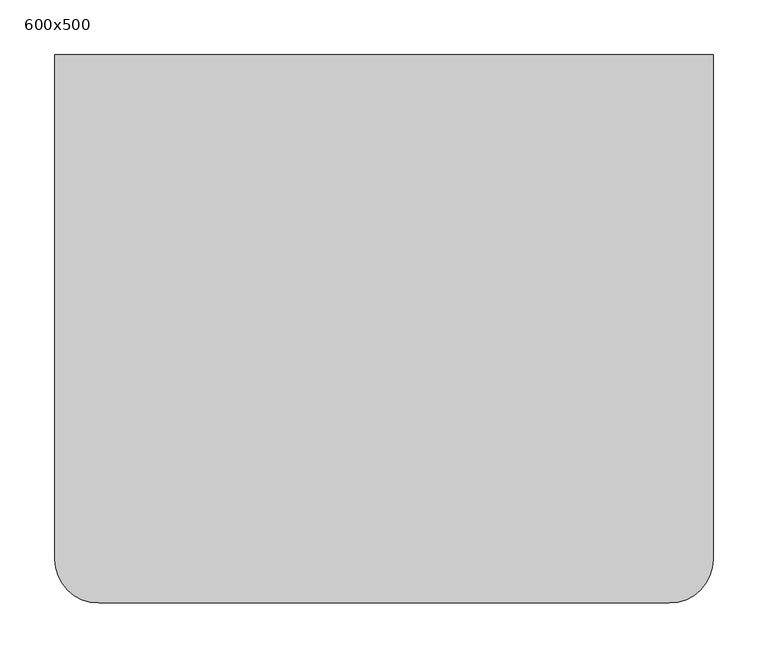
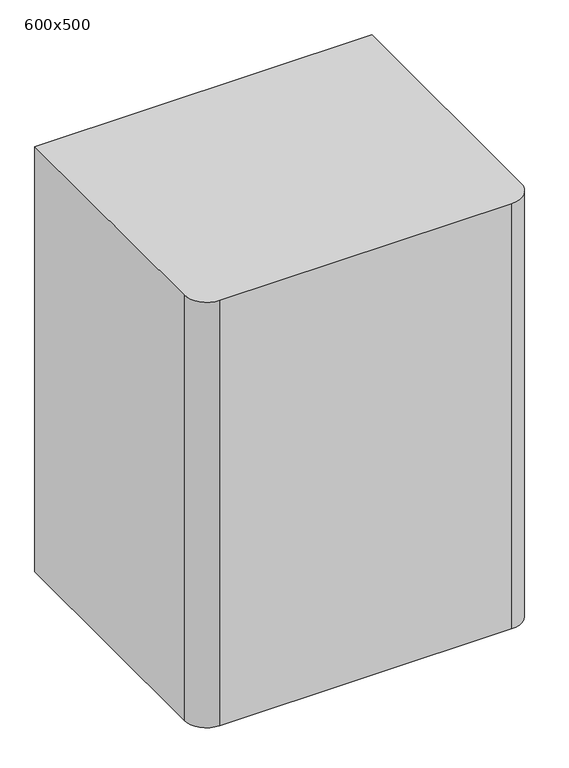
"""IFC4 building model written with IfcOpenShell, lengths in millimetres: flow terminal geometry, SP_раковина_LEG : 600x500."""

from ifc_helpers import new_model, si_unit, point, frame_2d, origin, origin_with_axes, place, context, project, spatial, polyline, circle_curve, trimmed, segment, composite_curve, outline, extrude, source, transform, mapped, element, save


def flow_terminal_600x500_6241dcfe(model_context):
    return source(origin(), model_context, "Body", "SweptSolid", [
        extrude(outline(composite_curve([segment(polyline([(300.0, 0.0), (300.0, -460.0)]), True, "CONTINUOUS"), segment(trimmed(circle_curve(frame_2d((260.0, -460.0)), 40.0), [point((300.0, -460.0))], [point((260.0, -500.0))], False, "CARTESIAN"), True, "CONTINUOUS"), segment(polyline([(260.0, -500.0), (-260.0, -500.0)]), True, "CONTINUOUS"), segment(trimmed(circle_curve(frame_2d((-260.0, -460.0)), 40.0), [point((-260.0, -500.0))], [point((-300.0, -460.0))], False, "CARTESIAN"), True, "CONTINUOUS"), segment(polyline([(-300.0, -460.0), (-300.0, 0.0), (300.0, 0.0)]), True, "CONTINUOUS")], self_intersect=False)), origin_with_axes(), (0.0, 0.0, 1.0), 800.0),
    ])


if __name__ == "__main__":
    model = new_model("IFC4")
    model_context = context("Model", 3, world=origin())
    ifc_project = project(units=[si_unit("LENGTHUNIT", "METRE", prefix="MILLI")], contexts=[model_context])
    site = spatial("IfcSite", under=ifc_project)
    building = spatial("IfcBuilding", under=site)
    placement = place(None, origin())
    flow_terminal_600x500_shape = flow_terminal_600x500_6241dcfe(model_context)
    element("IfcFlowTerminal", 1, ObjectType="SP_раковина_LEG : 600x500", at=placement, inside=building, context=model_context, shape_type="MappedRepresentation", body=[
        mapped(flow_terminal_600x500_shape, transform((0.0, 0.0, 0.0), x_axis=(1.0, 0.0, 0.0), y_axis=(0.0, 1.0, 0.0), z_axis=(0.0, 0.0, 1.0))),
    ])
    save(model, "model.ifc")
